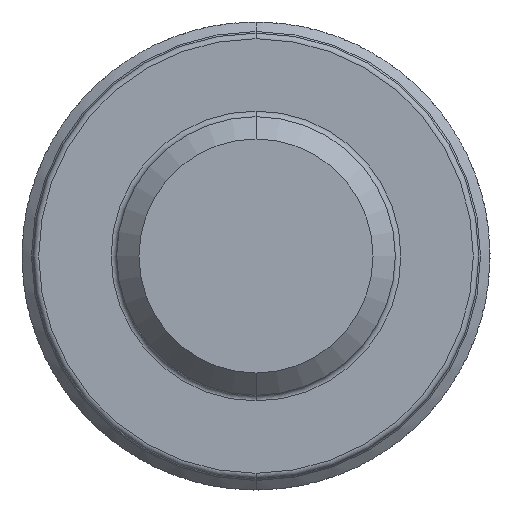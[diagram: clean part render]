
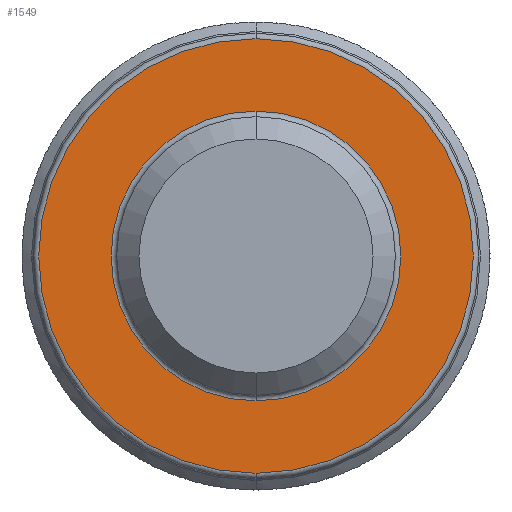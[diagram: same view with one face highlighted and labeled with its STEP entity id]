
A CAD part, front view. The second image highlights one B-rep face of the part: STEP entity #1549.
In plain terms, the highlighted planar face has unit normal (0, -1, 0).
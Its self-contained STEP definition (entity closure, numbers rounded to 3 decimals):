
#292 = DIRECTION ( 'NONE',  ( 0., 0., -1. ) ) ;
#351 = PLANE ( 'NONE',  #7650 ) ;
#749 = CIRCLE ( 'NONE', #6556, 2.6 ) ;
#750 = DIRECTION ( 'NONE',  ( 0., 1., 0. ) ) ;
#920 = DIRECTION ( 'NONE',  ( 0., 1., 0. ) ) ;
#988 = FACE_OUTER_BOUND ( 'NONE', #6449, .T. ) ;
#1482 = DIRECTION ( 'NONE',  ( 0., -1., 0. ) ) ;
#1495 = DIRECTION ( 'NONE',  ( 0., 0., -1. ) ) ;
#1501 = CARTESIAN_POINT ( 'NONE',  ( 0., -5., 0. ) ) ;
#1520 = CARTESIAN_POINT ( 'NONE',  ( 0., -5., 0. ) ) ;
#1535 = AXIS2_PLACEMENT_3D ( 'NONE', #5598, #3076, #5054 ) ;
#1549 = ADVANCED_FACE ( 'NONE', ( #6779, #988 ), #351, .T. ) ;
#2150 = CIRCLE ( 'NONE', #7684, 3.9 ) ;
#2366 = CIRCLE ( 'NONE', #1535, 3.9 ) ;
#2485 = ORIENTED_EDGE ( 'NONE', *, *, #3382, .T. ) ;
#2712 = AXIS2_PLACEMENT_3D ( 'NONE', #1501, #750, #6659 ) ;
#2734 = VERTEX_POINT ( 'NONE', #2991 ) ;
#2797 = ORIENTED_EDGE ( 'NONE', *, *, #5798, .T. ) ;
#2948 = DIRECTION ( 'NONE',  ( 0., -1., 0. ) ) ;
#2991 = CARTESIAN_POINT ( 'NONE',  ( 0., -5., 3.9 ) ) ;
#3076 = DIRECTION ( 'NONE',  ( 0., -1., 0. ) ) ;
#3382 = EDGE_CURVE ( 'NONE', #5101, #3511, #4465, .T. ) ;
#3511 = VERTEX_POINT ( 'NONE', #3514 ) ;
#3514 = CARTESIAN_POINT ( 'NONE',  ( 0., -5., -2.6 ) ) ;
#3531 = EDGE_LOOP ( 'NONE', ( #7734, #2485 ) ) ;
#4014 = CARTESIAN_POINT ( 'NONE',  ( 0., -5., -3.9 ) ) ;
#4465 = CIRCLE ( 'NONE', #2712, 2.6 ) ;
#5054 = DIRECTION ( 'NONE',  ( 0., 0., -1. ) ) ;
#5101 = VERTEX_POINT ( 'NONE', #6149 ) ;
#5400 = DIRECTION ( 'NONE',  ( 0., 0., -1. ) ) ;
#5598 = CARTESIAN_POINT ( 'NONE',  ( 0., -5., 0. ) ) ;
#5798 = EDGE_CURVE ( 'NONE', #2734, #6422, #2150, .T. ) ;
#6149 = CARTESIAN_POINT ( 'NONE',  ( 0., -5., 2.6 ) ) ;
#6422 = VERTEX_POINT ( 'NONE', #4014 ) ;
#6449 = EDGE_LOOP ( 'NONE', ( #7571, #2797 ) ) ;
#6556 = AXIS2_PLACEMENT_3D ( 'NONE', #7896, #920, #5400 ) ;
#6659 = DIRECTION ( 'NONE',  ( 0., 0., -1. ) ) ;
#6671 = EDGE_CURVE ( 'NONE', #6422, #2734, #2366, .T. ) ;
#6779 = FACE_BOUND ( 'NONE', #3531, .T. ) ;
#7292 = CARTESIAN_POINT ( 'NONE',  ( 2.5, -5., 0. ) ) ;
#7571 = ORIENTED_EDGE ( 'NONE', *, *, #6671, .T. ) ;
#7650 = AXIS2_PLACEMENT_3D ( 'NONE', #7292, #2948, #1495 ) ;
#7684 = AXIS2_PLACEMENT_3D ( 'NONE', #1520, #1482, #292 ) ;
#7734 = ORIENTED_EDGE ( 'NONE', *, *, #8083, .T. ) ;
#7896 = CARTESIAN_POINT ( 'NONE',  ( 0., -5., 0. ) ) ;
#8083 = EDGE_CURVE ( 'NONE', #3511, #5101, #749, .T. ) ;
